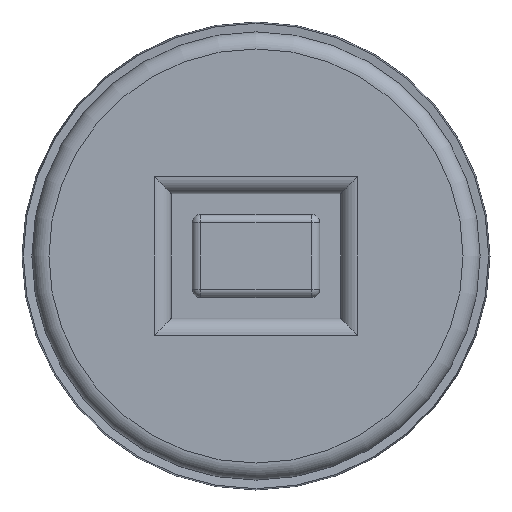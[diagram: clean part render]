
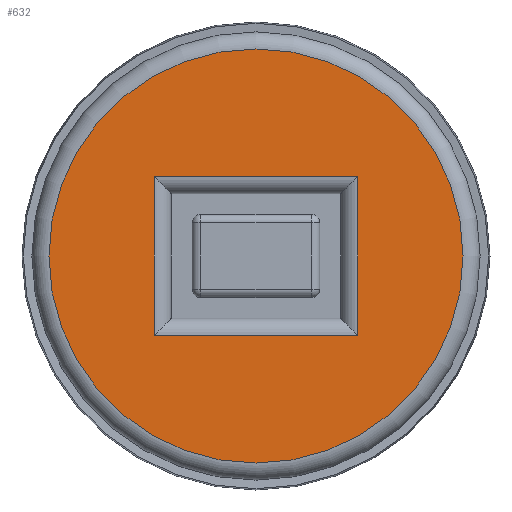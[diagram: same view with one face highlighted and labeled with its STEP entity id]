
A CAD part, left-side view. The second image highlights one B-rep face of the part: STEP entity #632.
In plain terms, the highlighted planar face has unit normal (-1, 0, 0).
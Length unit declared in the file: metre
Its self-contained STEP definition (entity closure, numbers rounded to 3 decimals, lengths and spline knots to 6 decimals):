
#56=CIRCLE('',#699,0.024115);
#151=ORIENTED_EDGE('',*,*,#294,.T.);
#152=ORIENTED_EDGE('',*,*,#295,.T.);
#153=ORIENTED_EDGE('',*,*,#296,.T.);
#154=ORIENTED_EDGE('',*,*,#297,.T.);
#155=ORIENTED_EDGE('',*,*,#298,.T.);
#294=EDGE_CURVE('',#365,#366,#425,.T.);
#295=EDGE_CURVE('',#366,#367,#426,.F.);
#296=EDGE_CURVE('',#367,#368,#427,.F.);
#297=EDGE_CURVE('',#368,#365,#428,.T.);
#298=EDGE_CURVE('',#369,#369,#56,.F.);
#365=VERTEX_POINT('',#1077);
#366=VERTEX_POINT('',#1078);
#367=VERTEX_POINT('',#1080);
#368=VERTEX_POINT('',#1082);
#369=VERTEX_POINT('',#1085);
#425=LINE('',#1076,#468);
#426=LINE('',#1079,#469);
#427=LINE('',#1081,#470);
#428=LINE('',#1083,#471);
#468=VECTOR('',#846,1.);
#469=VECTOR('',#847,1.);
#470=VECTOR('',#848,1.);
#471=VECTOR('',#849,1.);
#488=EDGE_LOOP('',(#151,#152,#153,#154));
#489=EDGE_LOOP('',(#155));
#555=FACE_BOUND('',#488,.T.);
#556=FACE_BOUND('',#489,.T.);
#618=PLANE('',#698);
#632=ADVANCED_FACE('',(#555,#556),#618,.F.);
#698=AXIS2_PLACEMENT_3D('',#1075,#844,#845);
#699=AXIS2_PLACEMENT_3D('',#1084,#850,#851);
#844=DIRECTION('',(1.,0.,0.));
#845=DIRECTION('',(0.,0.,-1.));
#846=DIRECTION('',(0.,0.,-1.));
#847=DIRECTION('',(0.,-1.,0.));
#848=DIRECTION('',(0.,0.,-1.));
#849=DIRECTION('',(0.,-1.,0.));
#850=DIRECTION('',(1.,0.,0.));
#851=DIRECTION('',(0.,0.,-1.));
#1075=CARTESIAN_POINT('',(0.013942,0.,0.012926));
#1076=CARTESIAN_POINT('',(0.013942,-0.01185,-0.00725));
#1077=CARTESIAN_POINT('',(0.013942,-0.01185,0.00925));
#1078=CARTESIAN_POINT('',(0.013942,-0.01185,-0.00925));
#1079=CARTESIAN_POINT('',(0.013942,0.,-0.00925));
#1080=CARTESIAN_POINT('',(0.013942,0.01185,-0.00925));
#1081=CARTESIAN_POINT('',(0.013942,0.01185,0.012926));
#1082=CARTESIAN_POINT('',(0.013942,0.01185,0.00925));
#1083=CARTESIAN_POINT('',(0.013942,-0.00985,0.00925));
#1084=CARTESIAN_POINT('',(0.013942,0.,0.));
#1085=CARTESIAN_POINT('',(0.013942,0.,-0.024115));
